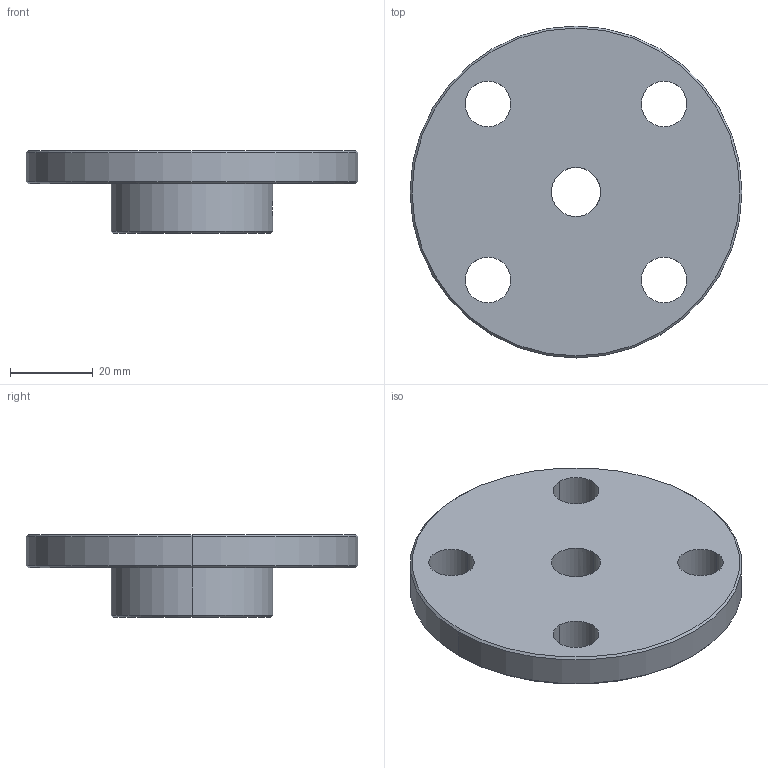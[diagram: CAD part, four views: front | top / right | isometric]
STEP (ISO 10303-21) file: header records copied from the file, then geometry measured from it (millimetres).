
FILE_DESCRIPTION (( 'STEP AP203' ), '1' );
FILE_NAME ('MJ2-FP.STEP', '2024-01-15T15:11:44', ( '' ), ( '' ), 'SwSTEP 2.0', 'SolidWorks 2022', '' );
FILE_SCHEMA (( 'CONFIG_CONTROL_DESIGN' ));
Length unit declared in the file: millimetre
Products named in the file (1): MJ2-FP
Bounding box: 80 x 80 x 20 mm (x, y, z)
Volume: 48968.8 mm3; surface area: 14393.3 mm2
Topology: 1 solids, 1 shells, 25 faces, 66 edges, 42 vertices
Faces by surface type: cylinder 16, cone 6, plane 3
Entity records: 979 total; most frequent: CARTESIAN_POINT 242, DIRECTION 144, ORIENTED_EDGE 132, EDGE_CURVE 66, AXIS2_PLACEMENT_3D 60, VERTEX_POINT 42, EDGE_LOOP 36, CIRCLE 34
